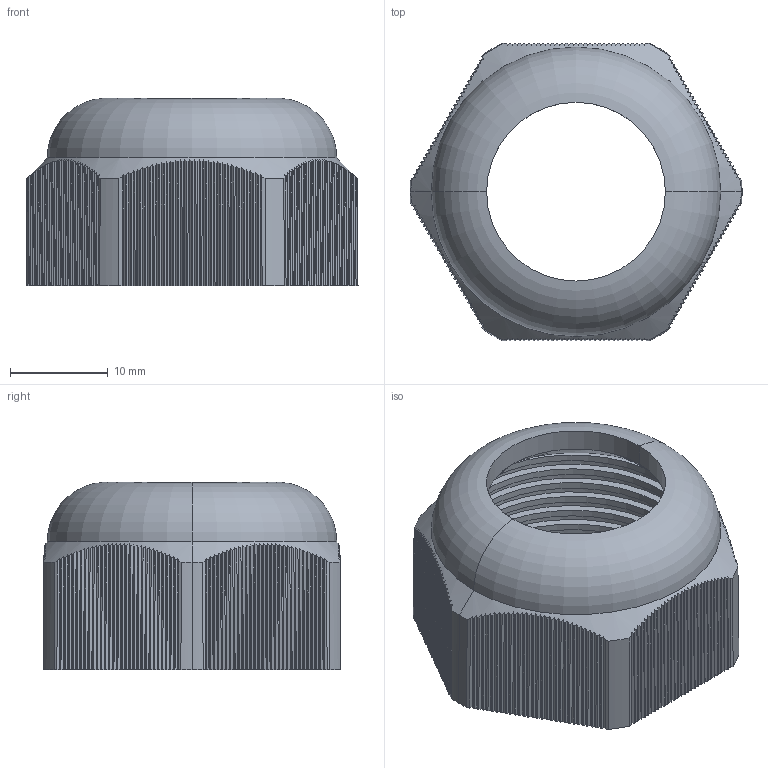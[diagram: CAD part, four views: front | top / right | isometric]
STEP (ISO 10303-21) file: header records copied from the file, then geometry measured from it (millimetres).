
FILE_DESCRIPTION (( 'STEP AP203' ), '1' );
FILE_NAME ('plc-pg-21-00.00.002 Ãàéêà öàíãîâàÿ (PG21) #collet nut (PG21)#.STEP', '2021-06-02T07:13:29', ( '' ), ( '' ), 'SwSTEP 2.0', 'SolidWorks 2021', '' );
FILE_SCHEMA (( 'CONFIG_CONTROL_DESIGN' ));
Length unit declared in the file: millimetre
Products named in the file (1): plc-pg-21-00.00.002 Ãàéêà öàíãîâàÿ (PG21) #collet nut (PG21)#
Bounding box: 33.93 x 30.45 x 19.14 mm (x, y, z)
Volume: 4395.2 mm3; surface area: 5226.2 mm2
Topology: 1 solids, 1 shells, 613 faces, 1817 edges, 1207 vertices
Faces by surface type: plane 556, cone 34, torus 11, cylinder 6, bspline 6
Entity records: 26047 total; most frequent: CARTESIAN_POINT 10802, ORIENTED_EDGE 3634, DIRECTION 2447, EDGE_CURVE 1817, VERTEX_POINT 1207, VECTOR 1121, LINE 1121, AXIS2_PLACEMENT_3D 663
